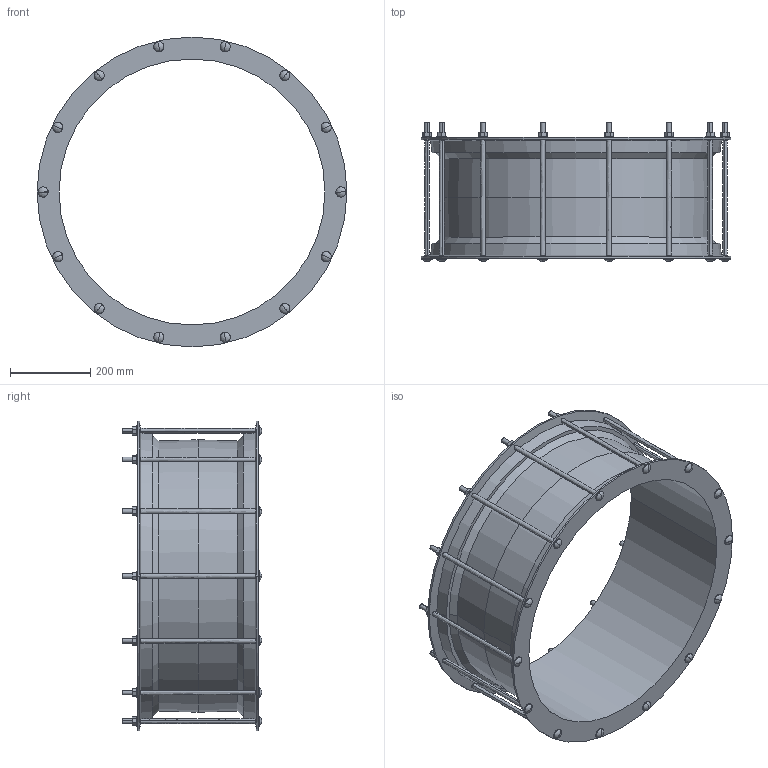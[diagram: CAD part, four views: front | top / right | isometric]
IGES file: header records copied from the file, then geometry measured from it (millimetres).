
Start section:  PTC IGES file: 645_662.igs
Global section: file name: 645_662.igs; native system: Creo Parametric by PTC Inc.; preprocessor: 2016130; author: mfairey; organization: Unknown; date: 20181218.153218; units: millimetre
Bounding box: 774 x 348 x 774 mm (x, y, z)
Surface area: 1876623 mm2 (no closed solid volume)
Topology: 0 solids, 0 shells, 292 faces, 1388 edges, 1360 vertices
Faces by surface type: revolution 162, bspline 130
